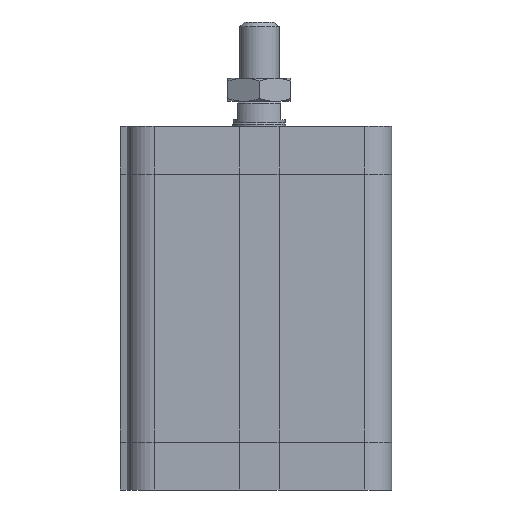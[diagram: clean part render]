
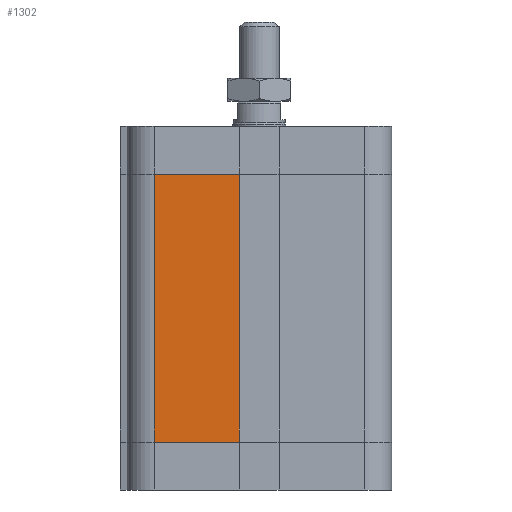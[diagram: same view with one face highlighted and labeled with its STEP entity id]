
A CAD part, left-side view. The second image highlights one B-rep face of the part: STEP entity #1302.
In plain terms, the highlighted planar face has unit normal (-1, 0, 0).
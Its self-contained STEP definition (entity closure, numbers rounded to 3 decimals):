
#1213=CARTESIAN_POINT('',(-40.,31.75,14.5));
#1214=VERTEX_POINT('',#1213);
#1222=CARTESIAN_POINT('',(-40.,31.75,95.5));
#1223=VERTEX_POINT('',#1222);
#1224=CARTESIAN_POINT('',(-40.,31.75,14.5));
#1225=DIRECTION('',(0.0,0.0,1.0));
#1226=VECTOR('',#1225,81.0);
#1227=LINE('',#1224,#1226);
#1228=EDGE_CURVE('',#1214,#1223,#1227,.T.);
#1272=CARTESIAN_POINT('',(-40.0,6.,0.0));
#1273=DIRECTION('',(-1.0,0.0,0.0));
#1274=DIRECTION('',(0.0,0.0,1.0));
#1275=AXIS2_PLACEMENT_3D('',#1272,#1273,#1274);
#1276=PLANE('',#1275);
#1277=CARTESIAN_POINT('',(-40.0,6.,14.5));
#1278=VERTEX_POINT('',#1277);
#1279=CARTESIAN_POINT('',(-40.,31.75,14.5));
#1280=DIRECTION('',(0.0,-1.0,0.0));
#1281=VECTOR('',#1280,25.75);
#1282=LINE('',#1279,#1281);
#1283=EDGE_CURVE('',#1214,#1278,#1282,.T.);
#1284=ORIENTED_EDGE('',*,*,#1283,.T.);
#1285=CARTESIAN_POINT('',(-40.0,6.,95.5));
#1286=VERTEX_POINT('',#1285);
#1287=CARTESIAN_POINT('',(-40.0,6.,14.5));
#1288=DIRECTION('',(0.0,0.0,1.0));
#1289=VECTOR('',#1288,81.0);
#1290=LINE('',#1287,#1289);
#1291=EDGE_CURVE('',#1278,#1286,#1290,.T.);
#1292=ORIENTED_EDGE('',*,*,#1291,.T.);
#1293=CARTESIAN_POINT('',(-40.,31.75,95.5));
#1294=DIRECTION('',(0.0,-1.0,0.0));
#1295=VECTOR('',#1294,25.75);
#1296=LINE('',#1293,#1295);
#1297=EDGE_CURVE('',#1223,#1286,#1296,.T.);
#1298=ORIENTED_EDGE('',*,*,#1297,.F.);
#1299=ORIENTED_EDGE('',*,*,#1228,.F.);
#1300=EDGE_LOOP('',(#1284,#1292,#1298,#1299));
#1301=FACE_OUTER_BOUND('',#1300,.T.);
#1302=ADVANCED_FACE('',(#1301),#1276,.T.);
